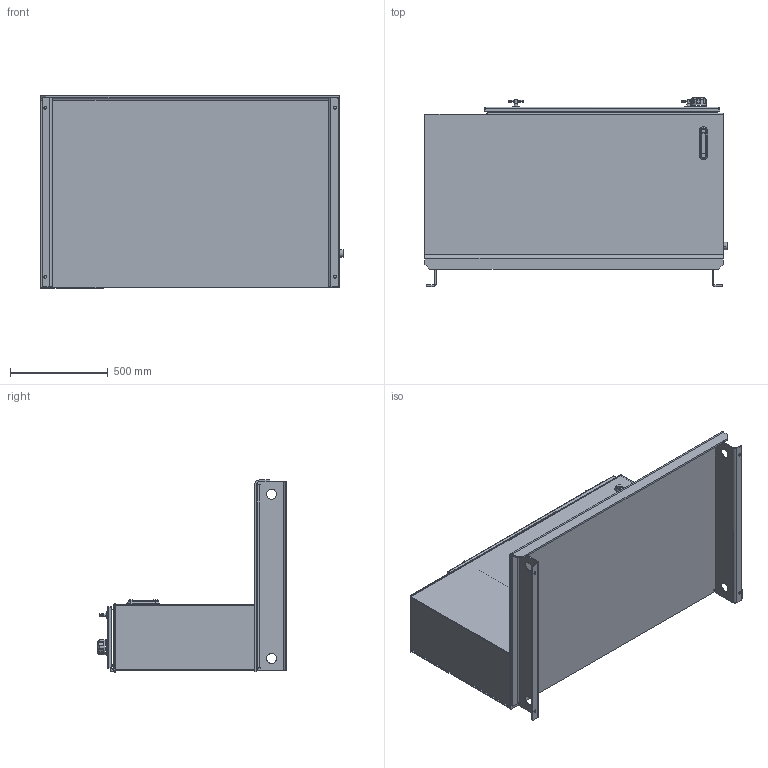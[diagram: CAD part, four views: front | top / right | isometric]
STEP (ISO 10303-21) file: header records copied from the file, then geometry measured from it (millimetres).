
FILE_DESCRIPTION (( 'STEP AP203' ), '1' );
FILE_NAME ('RLP080-PHT.STEP', '2015-01-07T19:07:54', ( '' ), ( '' ), 'SwSTEP 2.0', 'SolidWorks 2014', '' );
FILE_SCHEMA (( 'CONFIG_CONTROL_DESIGN' ));
Length unit declared in the file: inch
Products named in the file (1): RLP080-PHT
Bounding box: 1543.05 x 965.37 x 980.95 mm (x, y, z)
Surface area: 10288279.6 mm2 (no closed solid volume)
Topology: 0 solids, 25 shells, 330 faces, 1112 edges, 768 vertices
Faces by surface type: plane 154, cylinder 117, torus 20, bspline 17, cone 14, sphere 8
Entity records: 13569 total; most frequent: CARTESIAN_POINT 4099, DIRECTION 2000, ORIENTED_EDGE 1682, EDGE_CURVE 1095, VERTEX_POINT 760, AXIS2_PLACEMENT_3D 691, VECTOR 618, LINE 618
